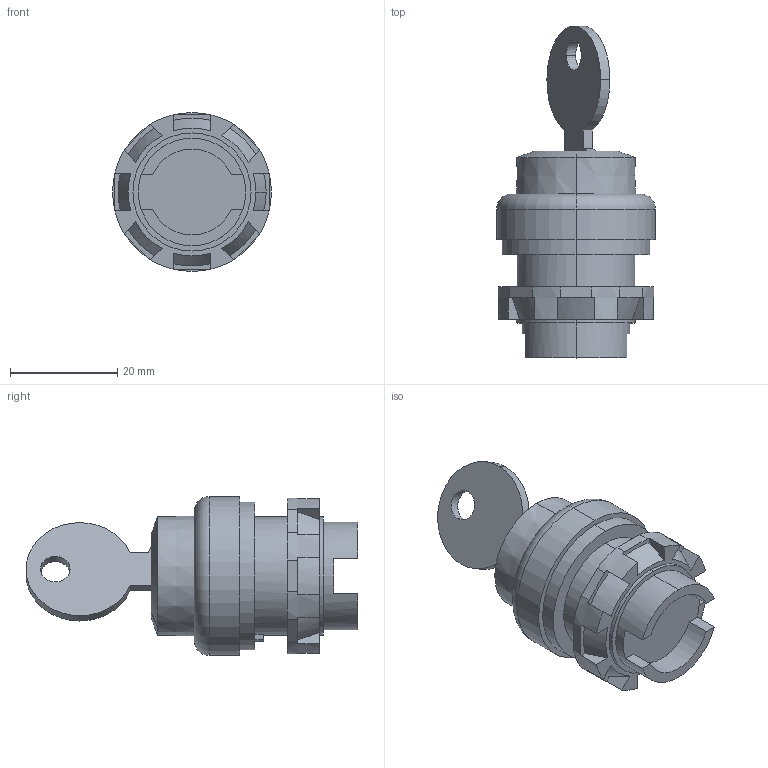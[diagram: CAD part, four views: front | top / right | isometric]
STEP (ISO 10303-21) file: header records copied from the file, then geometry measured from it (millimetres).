
FILE_DESCRIPTION (( 'STEP AP203' ), '1' );
FILE_NAME ('ZF_STEP_E2_xSC2xVAxxxx_A10.STEP', '2011-05-03T12:34:39', ( 'Pizzato Elettrica' ), ( '' ), 'SwSTEP 2.0', 'SolidWorks 2010', '' );
FILE_SCHEMA (( 'CONFIG_CONTROL_DESIGN' ));
Length unit declared in the file: millimetre
Products named in the file (4): Pizzato_selettore2; ZF_STEP_E2_xSC2xVAxxxx_A10; Pizzato_Chiave_Serratura_21040; ZF_STEP_VE_GF121A_A10_21008
Assembly tree (3 placements, depth 2):
  ZF_STEP_E2_xSC2xVAxxxx_A10
    Pizzato_Chiave_Serratura_21040
    ZF_STEP_VE_GF121A_A10_21008
    Pizzato_selettore2
Bounding box: 29.6 x 61.8 x 29.6 mm (x, y, z)
Volume: 18185 mm3; surface area: 7275 mm2
Topology: 3 solids, 3 shells, 119 faces, 314 edges, 208 vertices
Faces by surface type: plane 75, cylinder 27, cone 15, torus 2
Entity records: 4186 total; most frequent: CARTESIAN_POINT 775, DIRECTION 636, ORIENTED_EDGE 628, EDGE_CURVE 314, AXIS2_PLACEMENT_3D 229, VERTEX_POINT 208, VECTOR 178, LINE 178
